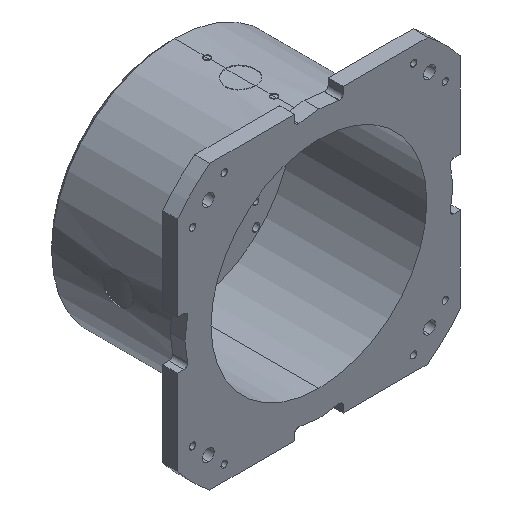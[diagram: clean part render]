
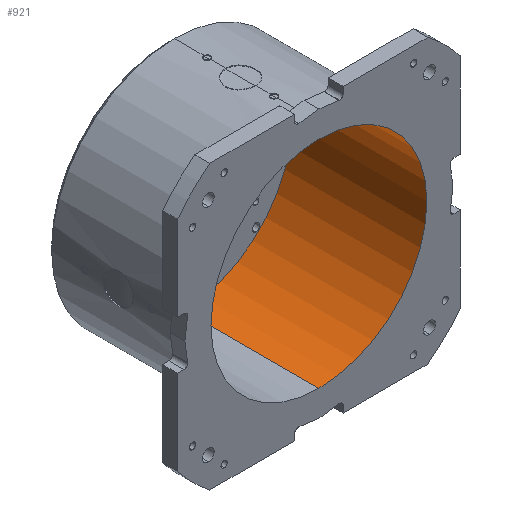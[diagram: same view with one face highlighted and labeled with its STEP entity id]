
A CAD part, isometric view. The second image highlights one B-rep face of the part: STEP entity #921.
In plain terms, the highlighted cylindrical face has radius 145 mm (diameter 290 mm), a partial arc.
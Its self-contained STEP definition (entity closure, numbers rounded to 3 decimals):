
#94 = EDGE_CURVE ( 'NONE', #4030, #3322, #6615, .T. ) ;
#265 = VERTEX_POINT ( 'NONE', #3758 ) ;
#315 = FACE_OUTER_BOUND ( 'NONE', #5327, .T. ) ;
#606 = CARTESIAN_POINT ( 'NONE',  ( 0., 0., 145. ) ) ;
#625 = ORIENTED_EDGE ( 'NONE', *, *, #1792, .T. ) ;
#681 = ORIENTED_EDGE ( 'NONE', *, *, #94, .F. ) ;
#741 = CARTESIAN_POINT ( 'NONE',  ( 0., 0., -145. ) ) ;
#921 = ADVANCED_FACE ( 'NONE', ( #315 ), #6236, .F. ) ;
#1270 = VECTOR ( 'NONE', #5725, 1000. ) ;
#1285 = CIRCLE ( 'NONE', #3048, 145. ) ;
#1318 = VERTEX_POINT ( 'NONE', #5760 ) ;
#1720 = CARTESIAN_POINT ( 'NONE',  ( 0., 182., 0. ) ) ;
#1792 = EDGE_CURVE ( 'NONE', #4030, #1318, #6776, .T. ) ;
#2723 = CARTESIAN_POINT ( 'NONE',  ( 0., 0., 0. ) ) ;
#2770 = DIRECTION ( 'NONE',  ( 0., 1., 0. ) ) ;
#3048 = AXIS2_PLACEMENT_3D ( 'NONE', #1720, #4770, #6572 ) ;
#3228 = CARTESIAN_POINT ( 'NONE',  ( 0., 0., 145. ) ) ;
#3265 = DIRECTION ( 'NONE',  ( 0., 1., 0. ) ) ;
#3322 = VERTEX_POINT ( 'NONE', #741 ) ;
#3593 = ORIENTED_EDGE ( 'NONE', *, *, #5847, .F. ) ;
#3758 = CARTESIAN_POINT ( 'NONE',  ( 0., 182., -145. ) ) ;
#4018 = ORIENTED_EDGE ( 'NONE', *, *, #4817, .T. ) ;
#4030 = VERTEX_POINT ( 'NONE', #606 ) ;
#4238 = AXIS2_PLACEMENT_3D ( 'NONE', #6949, #2770, #7531 ) ;
#4770 = DIRECTION ( 'NONE',  ( 0., 1., 0. ) ) ;
#4817 = EDGE_CURVE ( 'NONE', #1318, #265, #1285, .T. ) ;
#4839 = LINE ( 'NONE', #6529, #5309 ) ;
#5309 = VECTOR ( 'NONE', #7174, 1000. ) ;
#5327 = EDGE_LOOP ( 'NONE', ( #3593, #681, #625, #4018 ) ) ;
#5725 = DIRECTION ( 'NONE',  ( 0., 1., 0. ) ) ;
#5760 = CARTESIAN_POINT ( 'NONE',  ( 0., 182., 145. ) ) ;
#5847 = EDGE_CURVE ( 'NONE', #3322, #265, #4839, .T. ) ;
#6004 = AXIS2_PLACEMENT_3D ( 'NONE', #2723, #3265, #6322 ) ;
#6236 = CYLINDRICAL_SURFACE ( 'NONE', #6004, 145. ) ;
#6322 = DIRECTION ( 'NONE',  ( 0., 0., 1. ) ) ;
#6529 = CARTESIAN_POINT ( 'NONE',  ( 0., 0., -145. ) ) ;
#6572 = DIRECTION ( 'NONE',  ( 0., 0., 1. ) ) ;
#6615 = CIRCLE ( 'NONE', #4238, 145. ) ;
#6776 = LINE ( 'NONE', #3228, #1270 ) ;
#6949 = CARTESIAN_POINT ( 'NONE',  ( 0., 0., 0. ) ) ;
#7174 = DIRECTION ( 'NONE',  ( 0., 1., 0. ) ) ;
#7531 = DIRECTION ( 'NONE',  ( 0., 0., 1. ) ) ;
